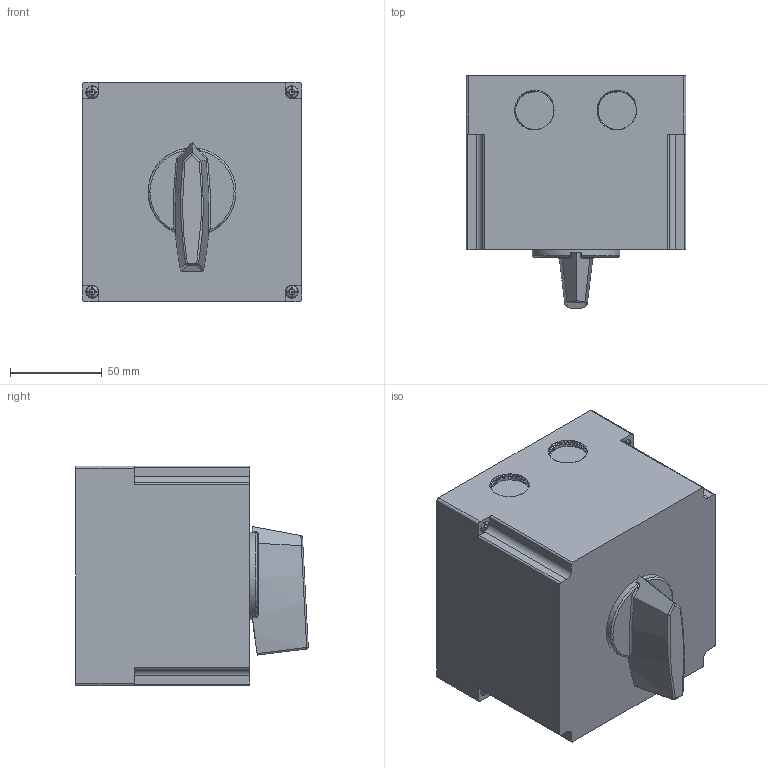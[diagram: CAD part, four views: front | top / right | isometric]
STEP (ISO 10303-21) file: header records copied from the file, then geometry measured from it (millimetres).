
FILE_DESCRIPTION(/* description */ (''),/* implementation_level */ '2;1');
FILE_NAME(/* name */ '4G40, 63, 80-PK-IP55_1_lub_2_korpusy.stp',/* time_stamp */ '2021-07-22T08:38:22+02:00',/* author */ (''),/* organization */ (''),/* preprocessor_version */ 'ST-DEVELOPER v18.1',/* originating_system */ 'SIEMENS PLM Software NX 1965',/* authorisation */ '');
FILE_SCHEMA (('AUTOMOTIVE_DESIGN { 1 0 10303 214 3 1 1 1 }'));
Length unit declared in the file: millimetre
Products named in the file (1): 4G40, 63, 80-PK-IP55_1_lub_2_korpusy_stp
Bounding box: 120 x 126.95 x 120 mm (x, y, z)
Surface area: 80945 mm2 (no closed solid volume)
Topology: 0 solids, 5 shells, 245 faces, 671 edges, 438 vertices
Faces by surface type: plane 101, cylinder 95, bspline 32, cone 9, torus 6, sphere 2
Full cylindrical faces by diameter (mm): 2.9 x24, 3.5 x4, 5.3 x4, 7 x4, 21 x8, 48 x1
Entity records: 14546 total; most frequent: CARTESIAN_POINT 9698, ORIENTED_EDGE 1024, DIRECTION 895, EDGE_CURVE 512, VERTEX_POINT 350, AXIS2_PLACEMENT_3D 347, EDGE_LOOP 268, ADVANCED_FACE 218
